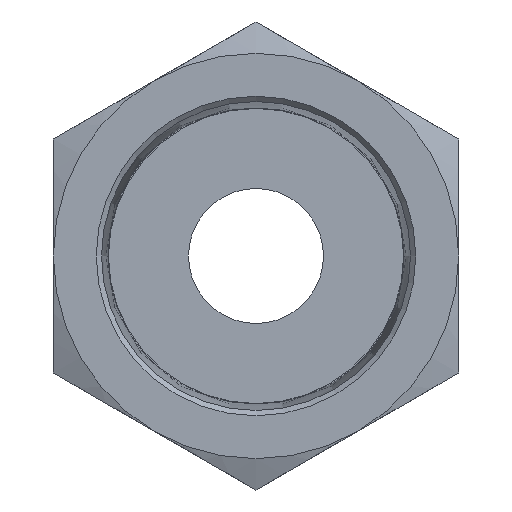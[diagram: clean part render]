
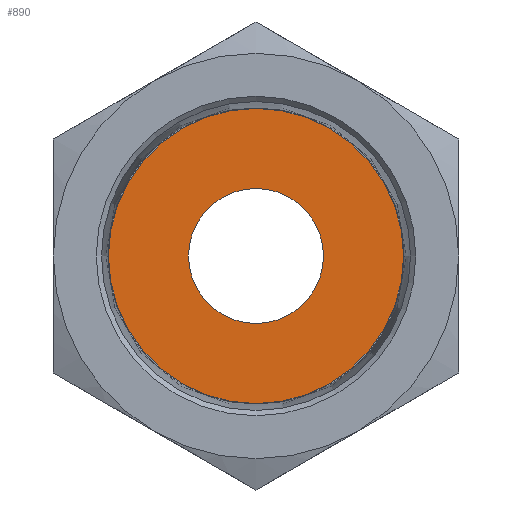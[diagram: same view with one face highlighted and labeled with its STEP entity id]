
A CAD part, front view. The second image highlights one B-rep face of the part: STEP entity #890.
In plain terms, the highlighted planar face has unit normal (0, -1, 0).
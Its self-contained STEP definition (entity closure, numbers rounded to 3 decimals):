
#33=FACE_BOUND('',#170,.T.);
#110=FACE_OUTER_BOUND('',#169,.T.);
#169=EDGE_LOOP('',(#737));
#170=EDGE_LOOP('',(#738));
#211=CIRCLE('',#972,4.);
#234=CIRCLE('',#1005,8.738);
#416=VERTEX_POINT('',#1491);
#434=VERTEX_POINT('',#1548);
#519=EDGE_CURVE('',#416,#416,#211,.T.);
#548=EDGE_CURVE('',#434,#434,#234,.T.);
#737=ORIENTED_EDGE('',*,*,#548,.T.);
#738=ORIENTED_EDGE('',*,*,#519,.T.);
#849=PLANE('',#1006);
#890=ADVANCED_FACE('',(#110,#33),#849,.T.);
#972=AXIS2_PLACEMENT_3D('',#1493,#1160,#1161);
#1005=AXIS2_PLACEMENT_3D('',#1550,#1232,#1233);
#1006=AXIS2_PLACEMENT_3D('',#1551,#1234,#1235);
#1160=DIRECTION('center_axis',(0.,1.,0.));
#1161=DIRECTION('ref_axis',(1.,0.,0.));
#1232=DIRECTION('center_axis',(0.,-1.,0.));
#1233=DIRECTION('ref_axis',(1.,0.,0.));
#1234=DIRECTION('center_axis',(0.,-1.,0.));
#1235=DIRECTION('ref_axis',(1.,0.,0.));
#1491=CARTESIAN_POINT('',(-4.,14.5,0.));
#1493=CARTESIAN_POINT('Origin',(0.,14.5,0.));
#1548=CARTESIAN_POINT('',(-8.738,14.5,0.));
#1550=CARTESIAN_POINT('Origin',(0.,14.5,0.));
#1551=CARTESIAN_POINT('Origin',(0.,14.5,0.));
